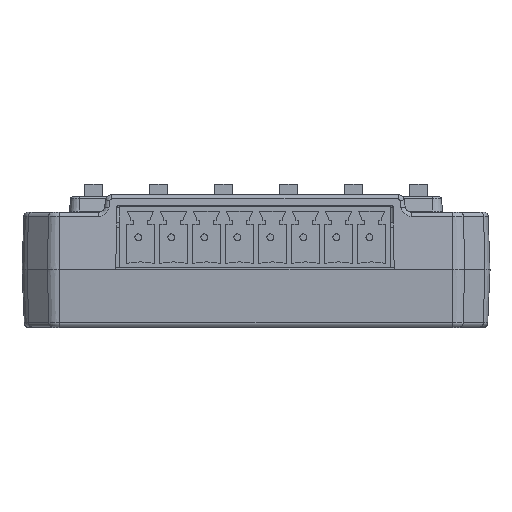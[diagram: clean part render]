
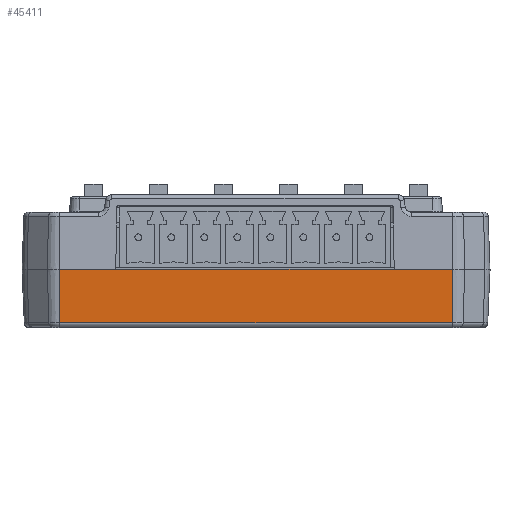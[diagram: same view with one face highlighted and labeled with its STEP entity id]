
A CAD part, top view. The second image highlights one B-rep face of the part: STEP entity #45411.
In plain terms, the highlighted planar face has unit normal (0, -0.044, 0.999).
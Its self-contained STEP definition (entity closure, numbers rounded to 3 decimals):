
#3807=DIRECTION('',(1.,0.,0.));
#3808=VECTOR('',#3807,32.129);
#3809=CARTESIAN_POINT('',(-16.186,6.65,31.85));
#3810=LINE('',#3809,#3808);
#5693=DIRECTION('',(1.,0.,0.));
#5694=VECTOR('',#5693,6.485);
#5695=CARTESIAN_POINT('',(-22.672,6.65,31.85));
#5696=LINE('',#5695,#5694);
#5697=DIRECTION('',(1.,0.,0.));
#5698=VECTOR('',#5697,6.729);
#5699=CARTESIAN_POINT('',(15.943,6.65,31.85));
#5700=LINE('',#5699,#5698);
#5710=DIRECTION('',(0.,-0.999,-0.044));
#5711=VECTOR('',#5710,6.178);
#5712=CARTESIAN_POINT('',(22.672,6.65,31.85));
#5713=LINE('',#5712,#5711);
#15139=DIRECTION('',(-1.,0.,0.));
#15140=VECTOR('',#15139,45.343);
#15141=CARTESIAN_POINT('',(22.672,0.478,
31.581));
#15142=LINE('',#15141,#15140);
#17947=DIRECTION('',(0.,0.999,0.044));
#17948=VECTOR('',#17947,6.178);
#17949=CARTESIAN_POINT('',(-22.672,0.478,
31.581));
#17950=LINE('',#17949,#17948);
#28033=CARTESIAN_POINT('',(22.672,0.478,
31.581));
#28034=VERTEX_POINT('',#28033);
#28035=CARTESIAN_POINT('',(-22.672,0.478,
31.581));
#28036=VERTEX_POINT('',#28035);
#33859=CARTESIAN_POINT('',(22.672,6.65,31.85));
#33860=VERTEX_POINT('',#33859);
#33861=CARTESIAN_POINT('',(-22.672,6.65,31.85));
#33862=CARTESIAN_POINT('',(-16.186,6.65,31.85));
#33863=VERTEX_POINT('',#33861);
#33864=VERTEX_POINT('',#33862);
#33865=CARTESIAN_POINT('',(15.943,6.65,31.85));
#33866=VERTEX_POINT('',#33865);
#45395=CARTESIAN_POINT('',(-22.672,6.65,31.85));
#45396=DIRECTION('',(0.,-0.044,0.999));
#45397=DIRECTION('',(1.,0.,0.));
#45398=AXIS2_PLACEMENT_3D('',#45395,#45396,#45397);
#45399=PLANE('',#45398);
#45400=ORIENTED_EDGE('',*,*,#45351,.T.);
#45401=ORIENTED_EDGE('',*,*,#42153,.T.);
#45402=ORIENTED_EDGE('',*,*,#45375,.T.);
#45404=ORIENTED_EDGE('',*,*,#45403,.T.);
#45406=ORIENTED_EDGE('',*,*,#45405,.T.);
#45408=ORIENTED_EDGE('',*,*,#45407,.T.);
#45409=EDGE_LOOP('',(#45400,#45401,#45402,#45404,#45406,#45408));
#45410=FACE_OUTER_BOUND('',#45409,.F.);
#42153=EDGE_CURVE('',#33864,#33866,#3810,.T.);
#45351=EDGE_CURVE('',#33863,#33864,#5696,.T.);
#45375=EDGE_CURVE('',#33866,#33860,#5700,.T.);
#45403=EDGE_CURVE('',#33860,#28034,#5713,.T.);
#45405=EDGE_CURVE('',#28034,#28036,#15142,.T.);
#45407=EDGE_CURVE('',#28036,#33863,#17950,.T.);
#45411=ADVANCED_FACE('',(#45410),#45399,.T.);
